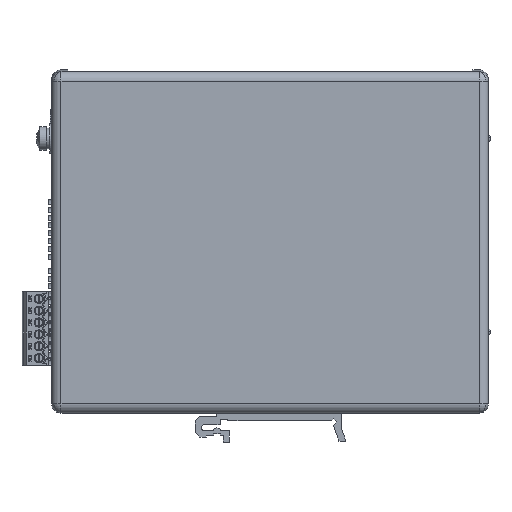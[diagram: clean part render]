
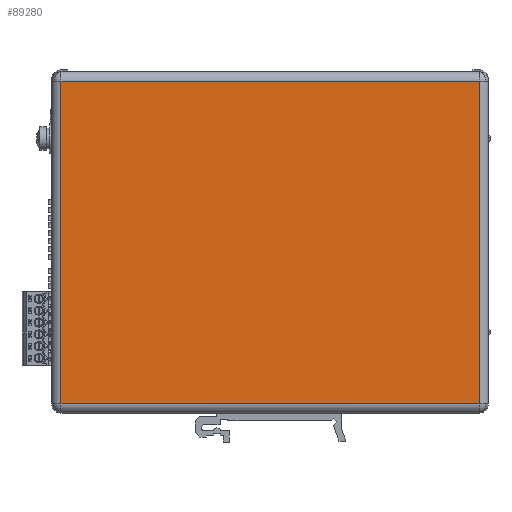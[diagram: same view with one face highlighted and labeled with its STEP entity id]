
A CAD part, front view. The second image highlights one B-rep face of the part: STEP entity #89280.
In plain terms, the highlighted planar face has unit normal (0, -1, 0).
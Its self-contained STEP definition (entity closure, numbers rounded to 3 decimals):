
#89241=CARTESIAN_POINT('',(-70.,-26.,-55.));
#89242=DIRECTION('',(0.,-1.,0.));
#89243=DIRECTION('',(0.,0.,-1.));
#89244=AXIS2_PLACEMENT_3D('',#89241,#89242,#89243);
#89245=PLANE('',#89244);
#89246=CARTESIAN_POINT('',(-67.,-26.,51.397));
#89247=VERTEX_POINT('',#89246);
#89248=CARTESIAN_POINT('',(67.,-26.,51.397));
#89249=VERTEX_POINT('',#89248);
#89250=CARTESIAN_POINT('',(-67.,-26.,51.397));
#89251=DIRECTION('',(1.,0.,-0.));
#89252=VECTOR('',#89251,134.);
#89253=LINE('',#89250,#89252);
#89254=EDGE_CURVE('',#89247,#89249,#89253,.T.);
#89255=ORIENTED_EDGE('',*,*,#89254,.F.);
#89256=CARTESIAN_POINT('',(-67.,-26.,-52.));
#89257=VERTEX_POINT('',#89256);
#89258=CARTESIAN_POINT('',(-67.,-26.,-52.));
#89259=DIRECTION('',(-0.,-0.,1.));
#89260=VECTOR('',#89259,103.397);
#89261=LINE('',#89258,#89260);
#89262=EDGE_CURVE('',#89257,#89247,#89261,.T.);
#89263=ORIENTED_EDGE('',*,*,#89262,.F.);
#89264=CARTESIAN_POINT('',(67.,-26.,-52.));
#89265=VERTEX_POINT('',#89264);
#89266=CARTESIAN_POINT('',(67.,-26.,-52.));
#89267=DIRECTION('',(-1.,0.,0.));
#89268=VECTOR('',#89267,134.);
#89269=LINE('',#89266,#89268);
#89270=EDGE_CURVE('',#89265,#89257,#89269,.T.);
#89271=ORIENTED_EDGE('',*,*,#89270,.F.);
#89272=CARTESIAN_POINT('',(67.,-26.,51.397));
#89273=DIRECTION('',(0.,0.,-1.));
#89274=VECTOR('',#89273,103.397);
#89275=LINE('',#89272,#89274);
#89276=EDGE_CURVE('',#89249,#89265,#89275,.T.);
#89277=ORIENTED_EDGE('',*,*,#89276,.F.);
#89278=EDGE_LOOP('',(#89255,#89263,#89271,#89277));
#89279=FACE_BOUND('',#89278,.T.);
#89280=ADVANCED_FACE('',(#89279),#89245,.T.);
